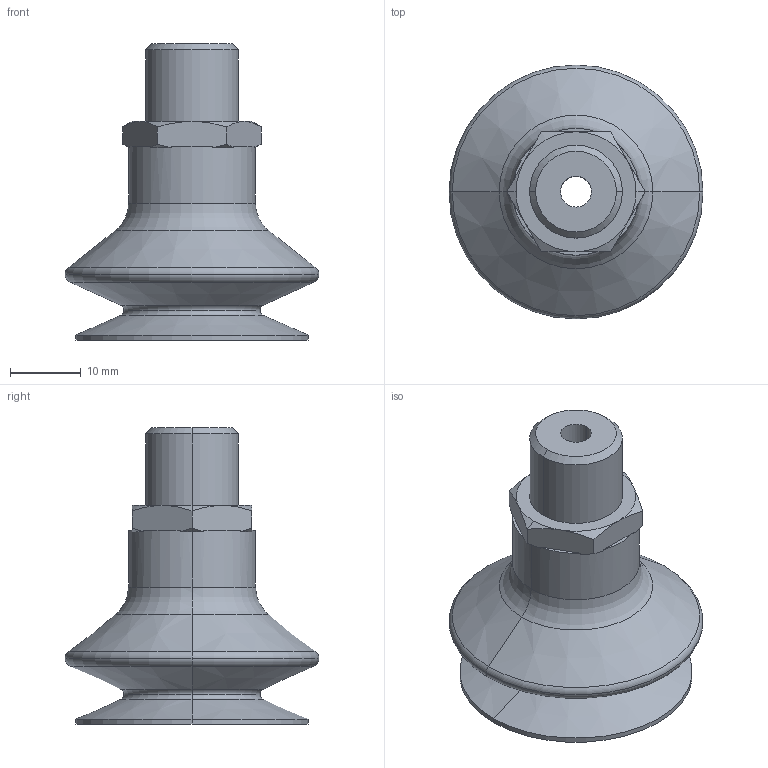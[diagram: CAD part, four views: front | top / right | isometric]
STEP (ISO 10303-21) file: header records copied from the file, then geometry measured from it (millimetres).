
FILE_DESCRIPTION(('STEP AP203'),'1');
FILE_NAME('10_01_06_00941.stp','2023-06-15T13:55:18',('TraceParts'),('TraceParts S.A.'),'Spatial InterOp 3D',' ',' ');
FILE_SCHEMA(('CONFIG_CONTROL_DESIGN'));
Length unit declared in the file: millimetre
Products named in the file (1): 1
Bounding box: 36 x 36 x 42 mm (x, y, z)
Volume: 8534.8 mm3; surface area: 7031.8 mm2
Topology: 1 solids, 1 shells, 82 faces, 180 edges, 102 vertices
Faces by surface type: cone 32, torus 20, plane 16, cylinder 12, revolution 2
Entity records: 2290 total; most frequent: CARTESIAN_POINT 455, DIRECTION 414, ORIENTED_EDGE 360, EDGE_CURVE 180, AXIS2_PLACEMENT_3D 177, VERTEX_POINT 102, CIRCLE 96, EDGE_LOOP 86
